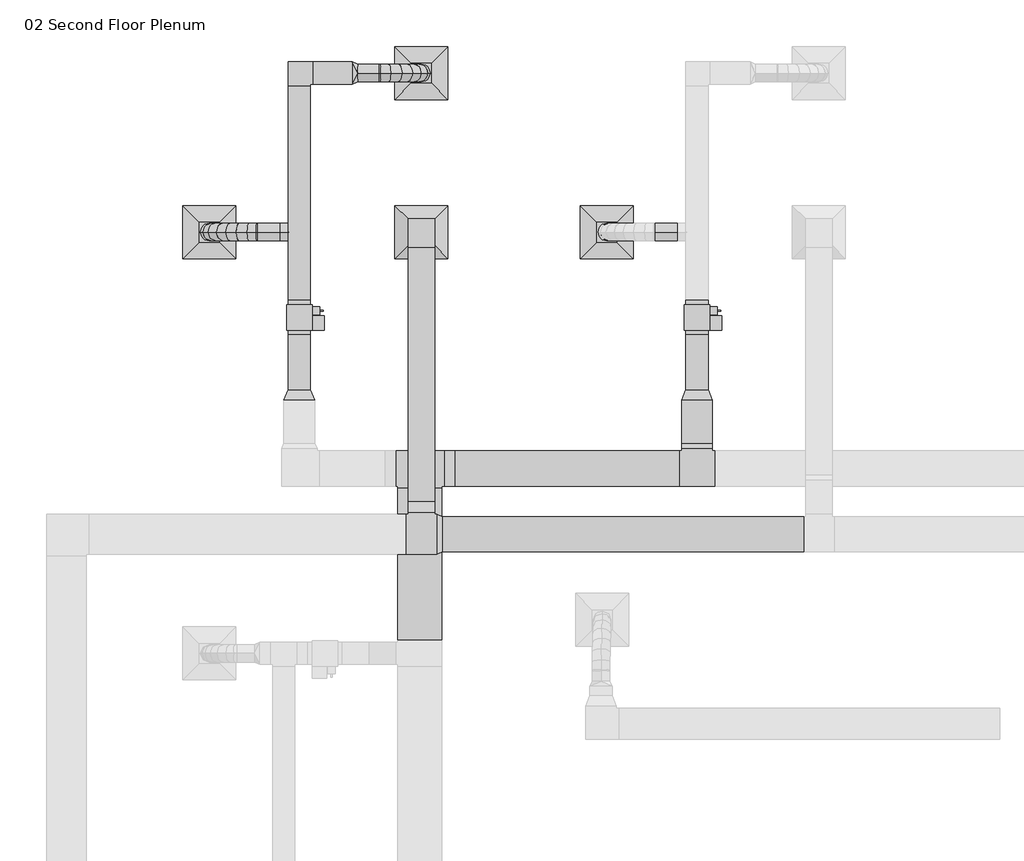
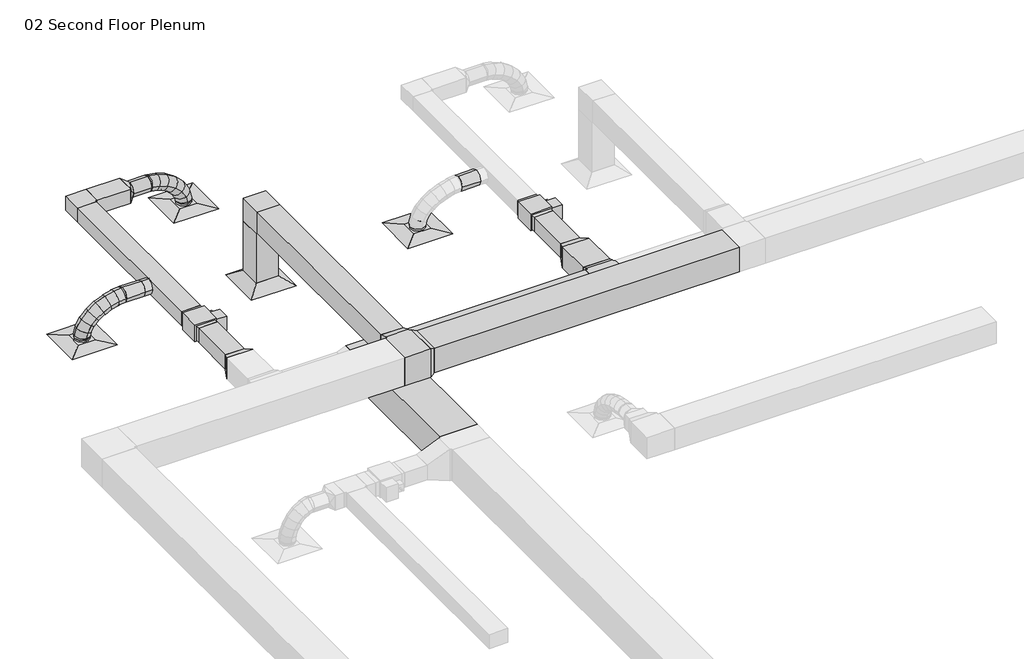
# One storey, part 6 of 12: 15 duct segments, 13 duct fittings, 4 air terminals, 2 proxies.
"""IFC4 building model written with IfcOpenShell, lengths in millimetres."""

from ifc_helpers import new_model, si_unit, point, frame, frame_2d, origin, place, context, project, spatial, polyline, circle_curve, ellipse_curve, trimmed, segment, composite_curve, outline, extrude, transform, mapped, element, save
from ifc_brep_helpers import plane_surface, cylinder_surface, advanced_brep
from components import return_diffuser_d30_returndiffuser_24x24_12x12_connection_ff543d60, supply_diffuser_rectangular_face_round_neck_d30_6390248a, bcn6785_vav_d30_vav1_8c327968, rectangular_elbow_mitered_standard_f09b78ec, rectangular_elbow_mitered_standard_4ff1c4e8, rectangular_tee_standard_6c605370, rectangular_tee_standard_6ecaa18e, rectangular_tee_standard_d8c1cff5, rectangular_transition_angle_45_degree_183635ce, rectangular_transition_angle_45_degree_4f949d70, rectangular_transition_angle_45_degree_74625674, rectangular_transition_angle_45_degree_43c6b1ce, rectangular_transition_angle_45_degree_58881a6c, rectangular_transition_angle_45_degree_6252f190, rectangular_to_round_transition_angle_45_degree_e9430680, round_takeoff_standard_1127d77f

model = new_model("IFC4")

# Units and contexts
model_context = context("Model", 3, world=origin())
ifc_project = project(units=[si_unit("LENGTHUNIT", "METRE", prefix="MILLI")], contexts=[model_context])

# Site, building, storey
site = spatial("IfcSite", under=ifc_project)
building = spatial("IfcBuilding", under=site)
storey = spatial("IfcBuildingStorey", under=building, Name="02 Second Floor Plenum", Elevation=3048.0)

# Air terminals
placement = place(None, origin())
return_diffuser_d30_returndiffuser_24x24_12x12_connection_shape = return_diffuser_d30_returndiffuser_24x24_12x12_connection_ff543d60(model_context)
element("IfcAirTerminal", 1, ObjectType="Return Diffuser : D30_ReturnDiffuser_24x24 12x12 Connection", at=placement, inside=storey, context=model_context, shape_type="MappedRepresentation", body=[
    mapped(return_diffuser_d30_returndiffuser_24x24_12x12_connection_shape, transform((-3890.7542617, 10036.7671675, 3048.0), x_axis=(1.0, 0.0, 0.0), y_axis=(0.0, 1.0, 0.0), z_axis=(0.0, 0.0, 1.0))),
])
supply_diffuser_rectangular_face_round_neck_d30_shape = supply_diffuser_rectangular_face_round_neck_d30_6390248a(model_context)
element("IfcAirTerminal", 2, ObjectType="Supply Diffuser - Rectangular Face Round Neck : D30_SupplyDiffuser_24x24 8 Neck", at=placement, inside=storey, context=model_context, shape_type="MappedRepresentation", body=[
    mapped(supply_diffuser_rectangular_face_round_neck_d30_shape, transform((-1757.1542617, 10036.7671675, 3048.0), x_axis=(1.0, 0.0, 0.0), y_axis=(0.0, 1.0, 0.0), z_axis=(0.0, 0.0, 1.0))),
])
element("IfcAirTerminal", 3, ObjectType="Supply Diffuser - Rectangular Face Round Neck : D30_SupplyDiffuser_24x24 8 Neck", at=placement, inside=storey, context=model_context, shape_type="MappedRepresentation", body=[
    mapped(supply_diffuser_rectangular_face_round_neck_d30_shape, transform((-3890.7542617, 11865.5671675, 3048.0), x_axis=(1.0, 0.0, 0.0), y_axis=(0.0, 1.0, 0.0), z_axis=(0.0, 0.0, 1.0))),
])
element("IfcAirTerminal", 4, ObjectType="Supply Diffuser - Rectangular Face Round Neck : D30_SupplyDiffuser_24x24 8 Neck", at=placement, inside=storey, context=model_context, shape_type="MappedRepresentation", body=[
    mapped(supply_diffuser_rectangular_face_round_neck_d30_shape, transform((-6329.1542617, 10036.7671675, 3048.0), x_axis=(1.0, 0.0, 0.0), y_axis=(0.0, 1.0, 0.0), z_axis=(0.0, 0.0, 1.0))),
])

# Proxies
bcn6785_vav_d30_vav1_shape = bcn6785_vav_d30_vav1_8c327968(model_context)
element("IfcBuildingElementProxy", 5, Name="BCN6785_VAV : D30_VAV1", ObjectType="BCN6785_VAV : D30_VAV1", at=placement, inside=storey, context=model_context, shape_type="MappedRepresentation", body=[
    mapped(bcn6785_vav_d30_vav1_shape, transform((-720.748366, 8909.6421675, 3384.55), x_axis=(0.0, 1.0, 0.0), y_axis=(-1.0, 0.0, 0.0), z_axis=(0.0, 0.0, 1.0))),
])
element("IfcBuildingElementProxy", 6, Name="BCN6785_VAV : D30_VAV1", ObjectType="BCN6785_VAV : D30_VAV1", at=placement, inside=storey, context=model_context, shape_type="MappedRepresentation", body=[
    mapped(bcn6785_vav_d30_vav1_shape, transform((-5292.748366, 8909.6421675, 3384.55), x_axis=(0.0, 1.0, 0.0), y_axis=(-1.0, 0.0, 0.0), z_axis=(0.0, 0.0, 1.0))),
])

# Duct fittings
rectangular_elbow_mitered_standard_shape = rectangular_elbow_mitered_standard_f09b78ec(model_context)
element("IfcDuctFitting", 7, ObjectType="Rectangular Elbow - Mitered : Standard", at=placement, inside=storey, context=model_context, shape_type="MappedRepresentation", body=[
    mapped(rectangular_elbow_mitered_standard_shape, transform((-5292.748366, 11865.5671675, 3505.2), x_axis=(-1.0, 0.0, 0.0), y_axis=(0.0, -1.0, 0.0), z_axis=(0.0, 0.0, 1.0))),
])
rectangular_elbow_mitered_standard_2_shape = rectangular_elbow_mitered_standard_4ff1c4e8(model_context)
element("IfcDuctFitting", 8, ObjectType="Rectangular Elbow - Mitered : Standard", at=placement, inside=storey, context=model_context, shape_type="MappedRepresentation", body=[
    mapped(rectangular_elbow_mitered_standard_2_shape, transform((-3890.7542617, 10036.7671675, 4038.6), x_axis=(0.0, 0.0, 1.0), y_axis=(0.0, -1.0, 0.0), z_axis=(1.0, 0.0, 0.0))),
])
rectangular_tee_standard_shape = rectangular_tee_standard_6c605370(model_context)
element("IfcDuctFitting", 9, ObjectType="Rectangular Tee : Standard", at=placement, inside=storey, context=model_context, shape_type="MappedRepresentation", body=[
    mapped(rectangular_tee_standard_shape, transform((-720.748366, 7316.8809317, 3505.2), x_axis=(-1.0, 0.0, 0.0), y_axis=(0.0, -1.0, 0.0), z_axis=(0.0, 0.0, 1.0))),
])
rectangular_tee_standard_2_shape = rectangular_tee_standard_6ecaa18e(model_context)
element("IfcDuctFitting", 10, ObjectType="Rectangular Tee : Standard", at=placement, inside=storey, context=model_context, shape_type="MappedRepresentation", body=[
    mapped(rectangular_tee_standard_2_shape, transform((-3908.5142705, 7316.8809317, 3505.2), x_axis=(1.0, 0.0, 0.0), y_axis=(0.0, 1.0, 0.0), z_axis=(0.0, 0.0, 1.0))),
])
rectangular_tee_standard_3_shape = rectangular_tee_standard_d8c1cff5(model_context)
element("IfcDuctFitting", 11, ObjectType="Rectangular Tee : Standard", at=placement, inside=storey, context=model_context, shape_type="MappedRepresentation", body=[
    mapped(rectangular_tee_standard_3_shape, transform((-3890.7542617, 6562.5101985, 4038.6), x_axis=(-1.0, 0.0, 0.0), y_axis=(0.0, -1.0, 0.0), z_axis=(0.0, 0.0, 1.0))),
])
rectangular_transition_angle_45_degree_shape = rectangular_transition_angle_45_degree_183635ce(model_context)
element("IfcDuctFitting", 12, ObjectType="Rectangular Transition - Angle : 45 Degree", at=placement, inside=storey, context=model_context, shape_type="MappedRepresentation", body=[
    mapped(rectangular_transition_angle_45_degree_shape, transform((-720.748366, 8101.2001185, 3505.2), x_axis=(0.0, 1.0, 0.0), y_axis=(-1.0, 0.0, 0.0), z_axis=(0.0, 0.0, 1.0))),
])
rectangular_transition_angle_45_degree_2_shape = rectangular_transition_angle_45_degree_4f949d70(model_context)
element("IfcDuctFitting", 13, ObjectType="Rectangular Transition - Angle : 45 Degree", at=placement, inside=storey, context=model_context, shape_type="MappedRepresentation", body=[
    mapped(rectangular_transition_angle_45_degree_2_shape, transform((-720.748366, 7545.4809317, 3505.2), x_axis=(0.0, 1.0, 0.0), y_axis=(-1.0, 0.0, 0.0), z_axis=(0.0, 0.0, 1.0))),
])
rectangular_transition_angle_45_degree_3_shape = rectangular_transition_angle_45_degree_74625674(model_context)
element("IfcDuctFitting", 14, ObjectType="Rectangular Transition - Angle : 45 Degree", at=placement, inside=storey, context=model_context, shape_type="MappedRepresentation", body=[
    mapped(rectangular_transition_angle_45_degree_3_shape, transform((-5292.748366, 8223.8421675, 3505.2), x_axis=(0.0, -1.0, 0.0), y_axis=(1.0, 0.0, 0.0), z_axis=(0.0, 0.0, 1.0))),
])
rectangular_transition_angle_45_degree_4_shape = rectangular_transition_angle_45_degree_43c6b1ce(model_context)
element("IfcDuctFitting", 15, ObjectType="Rectangular Transition - Angle : 45 Degree", at=placement, inside=storey, context=model_context, shape_type="MappedRepresentation", body=[
    mapped(rectangular_transition_angle_45_degree_4_shape, transform((-3629.1142705, 7316.8809317, 3505.2), x_axis=(1.0, 0.0, 0.0), y_axis=(0.0, 1.0, 0.0), z_axis=(0.0, 0.0, 1.0))),
])
rectangular_transition_angle_45_degree_5_shape = rectangular_transition_angle_45_degree_58881a6c(model_context)
element("IfcDuctFitting", 16, ObjectType="Rectangular Transition - Angle : 45 Degree", at=placement, inside=storey, context=model_context, shape_type="MappedRepresentation", body=[
    mapped(rectangular_transition_angle_45_degree_5_shape, transform((-3890.7542617, 6816.5101985, 4038.6), x_axis=(0.0, 1.0, 0.0), y_axis=(-1.0, 0.0, 0.0), z_axis=(0.0, 0.0, 1.0))),
])
rectangular_transition_angle_45_degree_6_shape = rectangular_transition_angle_45_degree_6252f190(model_context)
element("IfcDuctFitting", 17, ObjectType="Rectangular Transition - Angle : 45 Degree", at=placement, inside=storey, context=model_context, shape_type="MappedRepresentation", body=[
    mapped(rectangular_transition_angle_45_degree_6_shape, transform((-3712.9542617, 6562.5101985, 4038.6), x_axis=(1.0, 0.0, 0.0), y_axis=(0.0, 1.0, 0.0), z_axis=(0.0, 0.0, 1.0))),
])
rectangular_to_round_transition_angle_45_degree_shape = rectangular_to_round_transition_angle_45_degree_e9430680(model_context)
element("IfcDuctFitting", 18, ObjectType="Rectangular to Round Transition - Angle : 45 Degree", at=placement, inside=storey, context=model_context, shape_type="MappedRepresentation", body=[
    mapped(rectangular_to_round_transition_angle_45_degree_shape, transform((-4683.148366, 11865.5671675, 3505.2), x_axis=(1.0, 0.0, 0.0), y_axis=(0.0, 1.0, 0.0), z_axis=(0.0, 0.0, 1.0))),
])
round_takeoff_standard_shape = round_takeoff_standard_1127d77f(model_context)
element("IfcDuctFitting", 19, ObjectType="Round Takeoff : Standard", at=placement, inside=storey, context=model_context, shape_type="MappedRepresentation", body=[
    mapped(round_takeoff_standard_shape, transform((-5419.748366, 10036.7671675, 3505.2), x_axis=(-1.0, 0.0, 0.0), y_axis=(0.0, 1.0, 0.0), z_axis=(0.0, 0.0, -1.0))),
])

# Duct segments
element("IfcDuctSegment", 20, ObjectType="Flex - Round", at=placement, inside=storey, context=model_context, shape_type="AdvancedBrep", body=[
    advanced_brep(
    [(-4378.348366, 11967.1671675, 3505.2), (-4378.348366, 11865.5671675, 3403.6), (-4378.348366, 11763.9671675, 3505.2), (-4378.348366, 11865.5671675, 3606.8), (-4364.3401235, 11967.1671675, 3505.2), (-4372.3997602, 11865.5671675, 3403.6), (-4364.3401235, 11763.9671675, 3505.2), (-4356.2804868, 11865.5671675, 3606.8), (-3890.7542617, 11967.1671675, 3101.975), (-3789.1542617, 11865.5671675, 3101.975), (-3890.7542617, 11763.9671675, 3101.975), (-3992.3542617, 11865.5671675, 3101.975), (-4268.998454, 11967.1671675, 3489.9778475), (-4295.4658444, 11865.5671675, 3391.3168105), (-4268.998454, 11763.9671675, 3489.9778475), (-4242.5310635, 11865.5671675, 3588.6388846), (-4158.198337, 11967.1671675, 3447.5285565), (-4203.9317183, 11865.5671675, 3356.2486277), (-4158.198337, 11763.9671675, 3447.5285565), (-4112.4649557, 11865.5671675, 3538.8084854), (-4055.4609372, 11967.1671675, 3382.6778766), (-4118.5742744, 11865.5671675, 3302.3686553), (-4055.4609372, 11763.9671675, 3382.6778766), (-3992.3475999, 11865.5671675, 3462.987098), (-3970.2991766, 11967.1671675, 3300.2515575), (-4050.2757413, 11865.5671675, 3236.2639076), (-3970.2991766, 11763.9671675, 3300.2515575), (-3890.322612, 11865.5671675, 3364.2392074), (-3912.2259774, 11967.1671675, 3205.0753487), (-4006.7620486, 11865.5671675, 3164.9492848), (-3912.2259774, 11763.9671675, 3205.0753487), (-3817.6899062, 11865.5671675, 3245.2014127), (-3890.7542617, 11967.1671675, 3122.6897958), (-3992.3542617, 11865.5671675, 3109.6675594), (-3890.7542617, 11763.9671675, 3122.6897958), (-3789.1542617, 11865.5671675, 3135.7120321)],
    [
        (0, 1, circle_curve(frame((-4378.348366, 11865.5671675, 3505.2), z_axis=(-1.0, 0.0, 0.0), x_axis=(0.0, 1.0, 0.0)), 101.6)),
        (1, 2, circle_curve(frame((-4378.348366, 11865.5671675, 3505.2), z_axis=(-1.0, 0.0, 0.0), x_axis=(0.0, 1.0, 0.0)), 101.6)),
        (2, 3, circle_curve(frame((-4378.348366, 11865.5671675, 3505.2), z_axis=(-1.0, 0.0, 0.0), x_axis=(0.0, 1.0, 0.0)), 101.6)),
        (3, 0, circle_curve(frame((-4378.348366, 11865.5671675, 3505.2), z_axis=(-1.0, 0.0, 0.0), x_axis=(0.0, 1.0, 0.0)), 101.6)),
        (0, 4),
        (4, 5, ellipse_curve(frame((-4364.3401235, 11865.5671675, 3505.2), z_axis=(-0.9968683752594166, 0.0, 0.07907871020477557), x_axis=(-0.07907871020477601, 0.0, -0.9968683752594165)), 101.9191726, 101.6)),
        (5, 1),
        (5, 6, ellipse_curve(frame((-4364.3401235, 11865.5671675, 3505.2), z_axis=(-0.9968683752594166, 0.0, 0.07907871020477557), x_axis=(-0.07907871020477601, 0.0, -0.9968683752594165)), 101.9191726, 101.6)),
        (6, 2),
        (6, 7, ellipse_curve(frame((-4364.3401235, 11865.5671675, 3505.2), z_axis=(-0.9968683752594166, 0.0, 0.07907871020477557), x_axis=(-0.07907871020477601, 0.0, -0.9968683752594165)), 101.9191726, 101.6)),
        (7, 3),
        (7, 4, ellipse_curve(frame((-4364.3401235, 11865.5671675, 3505.2), z_axis=(-0.9968683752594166, 0.0, 0.07907871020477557), x_axis=(-0.07907871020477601, 0.0, -0.9968683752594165)), 101.9191726, 101.6)),
        (8, 9, circle_curve(frame((-3890.7542617, 11865.5671675, 3101.975), z_axis=(0.0, 0.0, -1.0), x_axis=(0.0, 1.0, 0.0)), 101.6)),
        (9, 10, circle_curve(frame((-3890.7542617, 11865.5671675, 3101.975), z_axis=(0.0, 0.0, -1.0), x_axis=(0.0, 1.0, 0.0)), 101.6)),
        (10, 11, circle_curve(frame((-3890.7542617, 11865.5671675, 3101.975), z_axis=(0.0, 0.0, -1.0), x_axis=(0.0, 1.0, 0.0)), 101.6)),
        (11, 8, circle_curve(frame((-3890.7542617, 11865.5671675, 3101.975), z_axis=(0.0, 0.0, -1.0), x_axis=(0.0, 1.0, 0.0)), 101.6)),
        (4, 12),
        (12, 13, ellipse_curve(frame((-4268.998454, 11865.5671675, 3489.9778475), z_axis=(-0.9658493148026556, 0.0, 0.2591044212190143), x_axis=(-0.2591044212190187, 0.0, -0.9658493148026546)), 102.1495129, 101.6)),
        (13, 5),
        (13, 14, ellipse_curve(frame((-4268.998454, 11865.5671675, 3489.9778475), z_axis=(-0.9658493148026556, 0.0, 0.2591044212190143), x_axis=(-0.2591044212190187, 0.0, -0.9658493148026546)), 102.1495129, 101.6)),
        (14, 6),
        (14, 15, ellipse_curve(frame((-4268.998454, 11865.5671675, 3489.9778475), z_axis=(-0.9658493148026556, 0.0, 0.2591044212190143), x_axis=(-0.2591044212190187, 0.0, -0.9658493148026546)), 102.1495129, 101.6)),
        (15, 7),
        (15, 12, ellipse_curve(frame((-4268.998454, 11865.5671675, 3489.9778475), z_axis=(-0.9658493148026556, 0.0, 0.2591044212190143), x_axis=(-0.2591044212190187, 0.0, -0.9658493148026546)), 102.1495129, 101.6)),
        (12, 16),
        (16, 17, ellipse_curve(frame((-4158.198337, 11865.5671675, 3447.5285565), z_axis=(-0.8940608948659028, 0.0, 0.44794543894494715), x_axis=(-0.4479454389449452, 0.0, -0.8940608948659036)), 102.0958744, 101.6)),
        (17, 13),
        (17, 18, ellipse_curve(frame((-4158.198337, 11865.5671675, 3447.5285565), z_axis=(-0.8940608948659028, 0.0, 0.44794543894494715), x_axis=(-0.4479454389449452, 0.0, -0.8940608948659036)), 102.0958744, 101.6)),
        (18, 14),
        (18, 19, ellipse_curve(frame((-4158.198337, 11865.5671675, 3447.5285565), z_axis=(-0.8940608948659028, 0.0, 0.44794543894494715), x_axis=(-0.4479454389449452, 0.0, -0.8940608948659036)), 102.0958744, 101.6)),
        (19, 15),
        (19, 16, ellipse_curve(frame((-4158.198337, 11865.5671675, 3447.5285565), z_axis=(-0.8940608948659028, 0.0, 0.44794543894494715), x_axis=(-0.4479454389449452, 0.0, -0.8940608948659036)), 102.0958744, 101.6)),
        (16, 20),
        (20, 21, ellipse_curve(frame((-4055.4609372, 11865.5671675, 3382.6778766), z_axis=(-0.7862553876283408, 0.0, 0.6179016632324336), x_axis=(-0.6179016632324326, 0.0, -0.7862553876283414)), 102.141394, 101.6)),
        (21, 17),
        (21, 22, ellipse_curve(frame((-4055.4609372, 11865.5671675, 3382.6778766), z_axis=(-0.7862553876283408, 0.0, 0.6179016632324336), x_axis=(-0.6179016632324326, 0.0, -0.7862553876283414)), 102.141394, 101.6)),
        (22, 18),
        (22, 23, ellipse_curve(frame((-4055.4609372, 11865.5671675, 3382.6778766), z_axis=(-0.7862553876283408, 0.0, 0.6179016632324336), x_axis=(-0.6179016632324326, 0.0, -0.7862553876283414)), 102.141394, 101.6)),
        (23, 19),
        (23, 20, ellipse_curve(frame((-4055.4609372, 11865.5671675, 3382.6778766), z_axis=(-0.7862553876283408, 0.0, 0.6179016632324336), x_axis=(-0.6179016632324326, 0.0, -0.7862553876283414)), 102.141394, 101.6)),
        (20, 24),
        (24, 25, ellipse_curve(frame((-3970.2991766, 11865.5671675, 3300.2515575), z_axis=(-0.6247331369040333, 0.0, 0.7808383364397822), x_axis=(-0.7808383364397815, 0.0, -0.6247331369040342)), 102.4239729, 101.6)),
        (25, 21),
        (25, 26, ellipse_curve(frame((-3970.2991766, 11865.5671675, 3300.2515575), z_axis=(-0.6247331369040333, 0.0, 0.7808383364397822), x_axis=(-0.7808383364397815, 0.0, -0.6247331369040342)), 102.4239729, 101.6)),
        (26, 22),
        (26, 27, ellipse_curve(frame((-3970.2991766, 11865.5671675, 3300.2515575), z_axis=(-0.6247331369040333, 0.0, 0.7808383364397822), x_axis=(-0.7808383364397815, 0.0, -0.6247331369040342)), 102.4239729, 101.6)),
        (27, 23),
        (27, 24, ellipse_curve(frame((-3970.2991766, 11865.5671675, 3300.2515575), z_axis=(-0.6247331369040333, 0.0, 0.7808383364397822), x_axis=(-0.7808383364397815, 0.0, -0.6247331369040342)), 102.4239729, 101.6)),
        (24, 28),
        (28, 29, ellipse_curve(frame((-3912.2259774, 11865.5671675, 3205.0753487), z_axis=(-0.3907136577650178, 0.0, 0.9205122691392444), x_axis=(-0.9205122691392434, 0.0, -0.39071365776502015)), 102.6994146, 101.6)),
        (29, 25),
        (29, 30, ellipse_curve(frame((-3912.2259774, 11865.5671675, 3205.0753487), z_axis=(-0.3907136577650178, 0.0, 0.9205122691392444), x_axis=(-0.9205122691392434, 0.0, -0.39071365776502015)), 102.6994146, 101.6)),
        (30, 26),
        (30, 31, ellipse_curve(frame((-3912.2259774, 11865.5671675, 3205.0753487), z_axis=(-0.3907136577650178, 0.0, 0.9205122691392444), x_axis=(-0.9205122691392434, 0.0, -0.39071365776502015)), 102.6994146, 101.6)),
        (31, 27),
        (31, 28, ellipse_curve(frame((-3912.2259774, 11865.5671675, 3205.0753487), z_axis=(-0.3907136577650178, 0.0, 0.9205122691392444), x_axis=(-0.9205122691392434, 0.0, -0.39071365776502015)), 102.6994146, 101.6)),
        (28, 32),
        (32, 33, ellipse_curve(frame((-3890.7542617, 11865.5671675, 3122.6897958), z_axis=(-0.127131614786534, 0.0, 0.9918858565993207), x_axis=(-0.9918858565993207, 0.0, -0.12713161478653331)), 102.431141, 101.6)),
        (33, 29),
        (33, 34, ellipse_curve(frame((-3890.7542617, 11865.5671675, 3122.6897958), z_axis=(-0.127131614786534, 0.0, 0.9918858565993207), x_axis=(-0.9918858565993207, 0.0, -0.12713161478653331)), 102.431141, 101.6)),
        (34, 30),
        (34, 35, ellipse_curve(frame((-3890.7542617, 11865.5671675, 3122.6897958), z_axis=(-0.127131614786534, 0.0, 0.9918858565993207), x_axis=(-0.9918858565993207, 0.0, -0.12713161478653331)), 102.431141, 101.6)),
        (35, 31),
        (35, 32, ellipse_curve(frame((-3890.7542617, 11865.5671675, 3122.6897958), z_axis=(-0.127131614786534, 0.0, 0.9918858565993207), x_axis=(-0.9918858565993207, 0.0, -0.12713161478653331)), 102.431141, 101.6)),
        (32, 8),
        (11, 33),
        (10, 34),
        (9, 35),
    ],
    [
        plane_surface(frame((-4378.348366, 11865.5671675, 3403.6), z_axis=(-1.0, 0.0, 0.0), x_axis=(0.0, 1.0, 0.0))),
        cylinder_surface(frame((-4378.348366, 11865.5671675, 3505.2), z_axis=(-1.0, 0.0, 0.0), x_axis=(0.0, 1.0, 0.0)), 101.6),
        plane_surface(frame((-3890.7542617, 11763.9671675, 3101.975), z_axis=(0.0, 0.0, -1.0), x_axis=(-1.0, 0.0, 0.0))),
        cylinder_surface(frame((-4364.3401235, 11865.5671675, 3505.2), z_axis=(-0.9874931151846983, 0.0, 0.15766213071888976), x_axis=(0.0, 1.0, 0.0)), 101.6),
        cylinder_surface(frame((-4268.998454, 11865.5671675, 3489.9778475), z_axis=(-0.9338139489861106, 0.0, 0.35775900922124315), x_axis=(0.0, 1.0, 0.0)), 101.6),
        cylinder_surface(frame((-4158.198337, 11865.5671675, 3447.5285565), z_axis=(-0.8456230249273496, 0.0, 0.5337805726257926), x_axis=(0.0, 1.0, 0.0)), 101.6),
        cylinder_surface(frame((-4055.4609372, 11865.5671675, 3382.6778766), z_axis=(-0.7185527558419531, 0.0, 0.6954724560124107), x_axis=(0.0, 1.0, 0.0)), 101.6),
        cylinder_surface(frame((-3970.2991766, 11865.5671675, 3300.2515575), z_axis=(-0.5208619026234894, 0.0, 0.85364095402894), x_axis=(0.0, 1.0, 0.0)), 101.6),
        cylinder_surface(frame((-3912.2259774, 11865.5671675, 3205.0753487), z_axis=(-0.2522001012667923, 0.0, 0.9676751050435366), x_axis=(0.0, 1.0, 0.0)), 101.6),
        cylinder_surface(frame((-3890.7542617, 11865.5671675, 3122.6897958), z_axis=(0.0, 0.0, 1.0), x_axis=(0.0, 1.0, 0.0)), 101.6),
    ],
    [
        (0, [[1, 2, 3, 4]]),
        (1, [[-1, 5, 6, 7]]),
        (1, [[-2, -7, 8, 9]]),
        (1, [[-3, -9, 10, 11]]),
        (1, [[-4, -11, 12, -5]]),
        (2, [[13, 14, 15, 16]]),
        (3, [[-6, 17, 18, 19]]),
        (3, [[-8, -19, 20, 21]]),
        (3, [[-10, -21, 22, 23]]),
        (3, [[-12, -23, 24, -17]]),
        (4, [[-18, 25, 26, 27]]),
        (4, [[-20, -27, 28, 29]]),
        (4, [[-22, -29, 30, 31]]),
        (4, [[-24, -31, 32, -25]]),
        (5, [[-26, 33, 34, 35]]),
        (5, [[-28, -35, 36, 37]]),
        (5, [[-30, -37, 38, 39]]),
        (5, [[-32, -39, 40, -33]]),
        (6, [[-34, 41, 42, 43]]),
        (6, [[-36, -43, 44, 45]]),
        (6, [[-38, -45, 46, 47]]),
        (6, [[-40, -47, 48, -41]]),
        (7, [[-42, 49, 50, 51]]),
        (7, [[-44, -51, 52, 53]]),
        (7, [[-46, -53, 54, 55]]),
        (7, [[-48, -55, 56, -49]]),
        (8, [[-50, 57, 58, 59]]),
        (8, [[-52, -59, 60, 61]]),
        (8, [[-54, -61, 62, 63]]),
        (8, [[-56, -63, 64, -57]]),
        (9, [[-58, 65, -16, 66]]),
        (9, [[-60, -66, -15, 67]]),
        (9, [[-62, -67, -14, 68]]),
        (9, [[-64, -68, -13, -65]]),
    ],
),
])
element("IfcDuctSegment", 21, ObjectType="Flex - Round", at=placement, inside=storey, context=model_context, shape_type="AdvancedBrep", body=[
    advanced_brep(
    [(-5775.348366, 9935.1671675, 3505.2), (-5775.348366, 10036.7671675, 3403.6), (-5775.348366, 10138.3671675, 3505.2), (-5775.348366, 10036.7671675, 3606.8), (-5785.550614, 9935.1671675, 3505.2), (-5779.8750929, 10036.7671675, 3403.6), (-5785.550614, 10138.3671675, 3505.2), (-5791.2261351, 10036.7671675, 3606.8), (-6329.1542617, 9935.1671675, 3101.975), (-6430.7542617, 10036.7671675, 3101.975), (-6329.1542617, 10138.3671675, 3101.975), (-6227.5542617, 10036.7671675, 3101.975), (-5877.9257887, 9935.1671675, 3494.847276), (-5858.593384, 10036.7671675, 3394.7778382), (-5877.9257887, 10138.3671675, 3494.847276), (-5897.2581935, 10036.7671675, 3594.9167138), (-5985.0020777, 9935.1671675, 3465.2048655), (-5950.4297131, 10036.7671675, 3369.3543743), (-5985.0020777, 10138.3671675, 3465.2048655), (-6019.5744422, 10036.7671675, 3561.0553568), (-6089.1854541, 9935.1671675, 3418.396411), (-6040.1078152, 10036.7671675, 3329.0629813), (-6089.1854541, 10138.3671675, 3418.396411), (-6138.263093, 10036.7671675, 3507.7298408), (-6183.0841394, 9935.1671675, 3356.5455549), (-6118.9689142, 10036.7671675, 3277.1173499), (-6183.0841394, 10138.3671675, 3356.5455549), (-6247.1993646, 10036.7671675, 3435.9737598), (-6259.3063549, 9935.1671675, 3281.7759394), (-6178.8169244, 10036.7671675, 3218.4098894), (-6259.3063549, 10138.3671675, 3281.7759394), (-6339.7957854, 10036.7671675, 3345.1419893), (-6310.4603219, 9935.1671675, 3196.211207), (-6215.5666037, 10036.7671675, 3156.9390659), (-6310.4603219, 10138.3671675, 3196.211207), (-6405.35404, 10036.7671675, 3235.483348), (-6329.1542617, 9935.1671675, 3121.7444887), (-6227.5542617, 10036.7671675, 3109.1866092), (-6329.1542617, 10138.3671675, 3121.7444887), (-6430.7542617, 10036.7671675, 3134.3023681)],
    [
        (0, 1, circle_curve(frame((-5775.348366, 10036.7671675, 3505.2), z_axis=(1.0, 0.0, 0.0), x_axis=(0.0, -1.0, 0.0)), 101.6)),
        (1, 2, circle_curve(frame((-5775.348366, 10036.7671675, 3505.2), z_axis=(1.0, 0.0, 0.0), x_axis=(0.0, -1.0, 0.0)), 101.6)),
        (2, 3, circle_curve(frame((-5775.348366, 10036.7671675, 3505.2), z_axis=(1.0, 0.0, 0.0), x_axis=(0.0, -1.0, 0.0)), 101.6)),
        (3, 0, circle_curve(frame((-5775.348366, 10036.7671675, 3505.2), z_axis=(1.0, 0.0, 0.0), x_axis=(0.0, -1.0, 0.0)), 101.6)),
        (0, 4),
        (4, 5, ellipse_curve(frame((-5785.550614, 10036.7671675, 3505.2), z_axis=(0.9984433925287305, 0.0, 0.05577447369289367), x_axis=(0.05577447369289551, 0.0, -0.9984433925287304)), 101.7583979, 101.6)),
        (5, 1),
        (5, 6, ellipse_curve(frame((-5785.550614, 10036.7671675, 3505.2), z_axis=(0.9984433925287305, 0.0, 0.05577447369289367), x_axis=(0.05577447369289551, 0.0, -0.9984433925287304)), 101.7583979, 101.6)),
        (6, 2),
        (6, 7, ellipse_curve(frame((-5785.550614, 10036.7671675, 3505.2), z_axis=(0.9984433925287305, 0.0, 0.05577447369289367), x_axis=(0.05577447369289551, 0.0, -0.9984433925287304)), 101.7583979, 101.6)),
        (7, 3),
        (7, 4, ellipse_curve(frame((-5785.550614, 10036.7671675, 3505.2), z_axis=(0.9984433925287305, 0.0, 0.05577447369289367), x_axis=(0.05577447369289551, 0.0, -0.9984433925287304)), 101.7583979, 101.6)),
        (8, 9, circle_curve(frame((-6329.1542617, 10036.7671675, 3101.975), z_axis=(0.0, 0.0, -1.0), x_axis=(0.0, -1.0, 0.0)), 101.6)),
        (9, 10, circle_curve(frame((-6329.1542617, 10036.7671675, 3101.975), z_axis=(0.0, 0.0, -1.0), x_axis=(0.0, -1.0, 0.0)), 101.6)),
        (10, 11, circle_curve(frame((-6329.1542617, 10036.7671675, 3101.975), z_axis=(0.0, 0.0, -1.0), x_axis=(0.0, -1.0, 0.0)), 101.6)),
        (11, 8, circle_curve(frame((-6329.1542617, 10036.7671675, 3101.975), z_axis=(0.0, 0.0, -1.0), x_axis=(0.0, -1.0, 0.0)), 101.6)),
        (4, 12),
        (12, 13, ellipse_curve(frame((-5877.9257887, 10036.7671675, 3494.847276), z_axis=(0.9818454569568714, 0.0, 0.18968262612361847), x_axis=(0.18968262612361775, 0.0, -0.9818454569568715)), 101.9197442, 101.6)),
        (13, 5),
        (13, 14, ellipse_curve(frame((-5877.9257887, 10036.7671675, 3494.847276), z_axis=(0.9818454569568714, 0.0, 0.18968262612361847), x_axis=(0.18968262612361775, 0.0, -0.9818454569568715)), 101.9197442, 101.6)),
        (14, 6),
        (14, 15, ellipse_curve(frame((-5877.9257887, 10036.7671675, 3494.847276), z_axis=(0.9818454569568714, 0.0, 0.18968262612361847), x_axis=(0.18968262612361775, 0.0, -0.9818454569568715)), 101.9197442, 101.6)),
        (15, 7),
        (15, 12, ellipse_curve(frame((-5877.9257887, 10036.7671675, 3494.847276), z_axis=(0.9818454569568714, 0.0, 0.18968262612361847), x_axis=(0.18968262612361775, 0.0, -0.9818454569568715)), 101.9197442, 101.6)),
        (12, 16),
        (16, 17, ellipse_curve(frame((-5985.0020777, 10036.7671675, 3465.2048655), z_axis=(0.9406802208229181, 0.0, 0.3392944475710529), x_axis=(0.33929444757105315, 0.0, -0.940680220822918)), 101.8948726, 101.6)),
        (17, 13),
        (17, 18, ellipse_curve(frame((-5985.0020777, 10036.7671675, 3465.2048655), z_axis=(0.9406802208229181, 0.0, 0.3392944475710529), x_axis=(0.33929444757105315, 0.0, -0.940680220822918)), 101.8948726, 101.6)),
        (18, 14),
        (18, 19, ellipse_curve(frame((-5985.0020777, 10036.7671675, 3465.2048655), z_axis=(0.9406802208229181, 0.0, 0.3392944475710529), x_axis=(0.33929444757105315, 0.0, -0.940680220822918)), 101.8948726, 101.6)),
        (19, 15),
        (19, 16, ellipse_curve(frame((-5985.0020777, 10036.7671675, 3465.2048655), z_axis=(0.9406802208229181, 0.0, 0.3392944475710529), x_axis=(0.33929444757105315, 0.0, -0.940680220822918)), 101.8948726, 101.6)),
        (16, 20),
        (20, 21, ellipse_curve(frame((-6089.1854541, 10036.7671675, 3418.396411), z_axis=(0.876446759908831, 0.0, 0.48149878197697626), x_axis=(0.48149878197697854, 0.0, -0.8764467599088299)), 101.9268184, 101.6)),
        (21, 17),
        (21, 22, ellipse_curve(frame((-6089.1854541, 10036.7671675, 3418.396411), z_axis=(0.876446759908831, 0.0, 0.48149878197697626), x_axis=(0.48149878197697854, 0.0, -0.8764467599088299)), 101.9268184, 101.6)),
        (22, 18),
        (22, 23, ellipse_curve(frame((-6089.1854541, 10036.7671675, 3418.396411), z_axis=(0.876446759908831, 0.0, 0.48149878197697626), x_axis=(0.48149878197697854, 0.0, -0.8764467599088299)), 101.9268184, 101.6)),
        (23, 19),
        (23, 20, ellipse_curve(frame((-6089.1854541, 10036.7671675, 3418.396411), z_axis=(0.876446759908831, 0.0, 0.48149878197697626), x_axis=(0.48149878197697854, 0.0, -0.8764467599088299)), 101.9268184, 101.6)),
        (20, 24),
        (24, 25, ellipse_curve(frame((-6183.0841394, 10036.7671675, 3356.5455549), z_axis=(0.7781246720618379, 0.0, 0.6281098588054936), x_axis=(0.6281098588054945, 0.0, -0.7781246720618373)), 102.0764509, 101.6)),
        (25, 21),
        (25, 26, ellipse_curve(frame((-6183.0841394, 10036.7671675, 3356.5455549), z_axis=(0.7781246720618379, 0.0, 0.6281098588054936), x_axis=(0.6281098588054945, 0.0, -0.7781246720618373)), 102.0764509, 101.6)),
        (26, 22),
        (26, 27, ellipse_curve(frame((-6183.0841394, 10036.7671675, 3356.5455549), z_axis=(0.7781246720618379, 0.0, 0.6281098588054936), x_axis=(0.6281098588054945, 0.0, -0.7781246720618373)), 102.0764509, 101.6)),
        (27, 23),
        (27, 24, ellipse_curve(frame((-6183.0841394, 10036.7671675, 3356.5455549), z_axis=(0.7781246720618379, 0.0, 0.6281098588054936), x_axis=(0.6281098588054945, 0.0, -0.7781246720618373)), 102.0764509, 101.6)),
        (24, 28),
        (28, 29, ellipse_curve(frame((-6259.3063549, 10036.7671675, 3281.7759394), z_axis=(0.6185718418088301, 0.0, 0.7857282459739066), x_axis=(0.7857282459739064, 0.0, -0.6185718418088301)), 102.4392733, 101.6)),
        (29, 25),
        (29, 30, ellipse_curve(frame((-6259.3063549, 10036.7671675, 3281.7759394), z_axis=(0.6185718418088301, 0.0, 0.7857282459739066), x_axis=(0.7857282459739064, 0.0, -0.6185718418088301)), 102.4392733, 101.6)),
        (30, 26),
        (30, 31, ellipse_curve(frame((-6259.3063549, 10036.7671675, 3281.7759394), z_axis=(0.6185718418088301, 0.0, 0.7857282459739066), x_axis=(0.7857282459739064, 0.0, -0.6185718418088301)), 102.4392733, 101.6)),
        (31, 27),
        (31, 28, ellipse_curve(frame((-6259.3063549, 10036.7671675, 3281.7759394), z_axis=(0.6185718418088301, 0.0, 0.7857282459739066), x_axis=(0.7857282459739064, 0.0, -0.6185718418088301)), 102.4392733, 101.6)),
        (28, 32),
        (32, 33, ellipse_curve(frame((-6310.4603219, 10036.7671675, 3196.211207), z_axis=(0.3823998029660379, 0.0, 0.9239969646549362), x_axis=(0.923996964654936, 0.0, -0.38239980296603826)), 102.6991666, 101.6)),
        (33, 29),
        (33, 34, ellipse_curve(frame((-6310.4603219, 10036.7671675, 3196.211207), z_axis=(0.3823998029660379, 0.0, 0.9239969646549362), x_axis=(0.923996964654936, 0.0, -0.38239980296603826)), 102.6991666, 101.6)),
        (34, 30),
        (34, 35, ellipse_curve(frame((-6310.4603219, 10036.7671675, 3196.211207), z_axis=(0.3823998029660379, 0.0, 0.9239969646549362), x_axis=(0.923996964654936, 0.0, -0.38239980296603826)), 102.6991666, 101.6)),
        (35, 31),
        (35, 32, ellipse_curve(frame((-6310.4603219, 10036.7671675, 3196.211207), z_axis=(0.3823998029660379, 0.0, 0.9239969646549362), x_axis=(0.923996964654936, 0.0, -0.38239980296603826)), 102.6991666, 101.6)),
        (32, 36),
        (36, 37, ellipse_curve(frame((-6329.1542617, 10036.7671675, 3121.7444887), z_axis=(0.12266771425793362, 0.0, 0.9924477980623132), x_axis=(0.992447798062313, 0.0, -0.12266771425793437)), 102.3731426, 101.6)),
        (37, 33),
        (37, 38, ellipse_curve(frame((-6329.1542617, 10036.7671675, 3121.7444887), z_axis=(0.12266771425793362, 0.0, 0.9924477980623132), x_axis=(0.992447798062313, 0.0, -0.12266771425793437)), 102.3731426, 101.6)),
        (38, 34),
        (38, 39, ellipse_curve(frame((-6329.1542617, 10036.7671675, 3121.7444887), z_axis=(0.12266771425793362, 0.0, 0.9924477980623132), x_axis=(0.992447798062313, 0.0, -0.12266771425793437)), 102.3731426, 101.6)),
        (39, 35),
        (39, 36, ellipse_curve(frame((-6329.1542617, 10036.7671675, 3121.7444887), z_axis=(0.12266771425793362, 0.0, 0.9924477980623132), x_axis=(0.992447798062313, 0.0, -0.12266771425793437)), 102.3731426, 101.6)),
        (36, 8),
        (11, 37),
        (10, 38),
        (9, 39),
    ],
    [
        plane_surface(frame((-5775.348366, 10036.7671675, 3403.6), z_axis=(1.0, 0.0, 0.0), x_axis=(0.0, -1.0, 0.0))),
        cylinder_surface(frame((-5775.348366, 10036.7671675, 3505.2), z_axis=(1.0, 0.0, 0.0), x_axis=(0.0, -1.0, 0.0)), 101.6),
        plane_surface(frame((-6329.1542617, 9935.1671675, 3101.975), z_axis=(0.0, 0.0, -1.0), x_axis=(-1.0, 0.0, 0.0))),
        cylinder_surface(frame((-5785.550614, 10036.7671675, 3505.2), z_axis=(0.9937784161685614, 0.0, 0.11137530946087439), x_axis=(0.0, -1.0, 0.0)), 101.6),
        cylinder_surface(frame((-5877.9257887, 10036.7671675, 3494.847276), z_axis=(0.9637519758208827, 0.0, 0.2667997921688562), x_axis=(0.0, -1.0, 0.0)), 101.6),
        cylinder_surface(frame((-5985.0020777, 10036.7671675, 3465.2048655), z_axis=(0.9121640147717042, 0.0, 0.409825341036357), x_axis=(0.0, -1.0, 0.0)), 101.6),
        cylinder_surface(frame((-6089.1854541, 10036.7671675, 3418.396411), z_axis=(0.8351090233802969, 0.0, 0.5500844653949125), x_axis=(0.0, -1.0, 0.0)), 101.6),
        cylinder_surface(frame((-6183.0841394, 10036.7671675, 3356.5455549), z_axis=(0.7138763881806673, 0.0, 0.7002717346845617), x_axis=(0.0, -1.0, 0.0)), 101.6),
        cylinder_surface(frame((-6259.3063549, 10036.7671675, 3281.7759394), z_axis=(0.5131315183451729, 0.0, 0.8583099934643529), x_axis=(0.0, -1.0, 0.0)), 101.6),
        cylinder_surface(frame((-6310.4603219, 10036.7671675, 3196.211207), z_axis=(0.24348260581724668, 0.0, 0.9699052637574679), x_axis=(0.0, -1.0, 0.0)), 101.6),
        cylinder_surface(frame((-6329.1542617, 10036.7671675, 3121.7444887), z_axis=(0.0, 0.0, 1.0), x_axis=(0.0, -1.0, 0.0)), 101.6),
    ],
    [
        (0, [[1, 2, 3, 4]]),
        (1, [[-1, 5, 6, 7]]),
        (1, [[-2, -7, 8, 9]]),
        (1, [[-3, -9, 10, 11]]),
        (1, [[-4, -11, 12, -5]]),
        (2, [[13, 14, 15, 16]]),
        (3, [[-6, 17, 18, 19]]),
        (3, [[-8, -19, 20, 21]]),
        (3, [[-10, -21, 22, 23]]),
        (3, [[-12, -23, 24, -17]]),
        (4, [[-18, 25, 26, 27]]),
        (4, [[-20, -27, 28, 29]]),
        (4, [[-22, -29, 30, 31]]),
        (4, [[-24, -31, 32, -25]]),
        (5, [[-26, 33, 34, 35]]),
        (5, [[-28, -35, 36, 37]]),
        (5, [[-30, -37, 38, 39]]),
        (5, [[-32, -39, 40, -33]]),
        (6, [[-34, 41, 42, 43]]),
        (6, [[-36, -43, 44, 45]]),
        (6, [[-38, -45, 46, 47]]),
        (6, [[-40, -47, 48, -41]]),
        (7, [[-42, 49, 50, 51]]),
        (7, [[-44, -51, 52, 53]]),
        (7, [[-46, -53, 54, 55]]),
        (7, [[-48, -55, 56, -49]]),
        (8, [[-50, 57, 58, 59]]),
        (8, [[-52, -59, 60, 61]]),
        (8, [[-54, -61, 62, 63]]),
        (8, [[-56, -63, 64, -57]]),
        (9, [[-58, 65, 66, 67]]),
        (9, [[-60, -67, 68, 69]]),
        (9, [[-62, -69, 70, 71]]),
        (9, [[-64, -71, 72, -65]]),
        (10, [[-66, 73, -16, 74]]),
        (10, [[-68, -74, -15, 75]]),
        (10, [[-70, -75, -14, 76]]),
        (10, [[-72, -76, -13, -73]]),
    ],
),
])
element("IfcDuctSegment", 22, ObjectType="Mitered Elbows / Tees", at=placement, inside=storey, context=model_context, shape_type="SweptSolid", body=[
    extrude(outline(polyline([(-847.748366, 8858.8421675), (-593.748366, 8858.8421675), (-593.748366, 8223.8421675), (-847.748366, 8223.8421675), (-847.748366, 8858.8421675)])), frame((0.0, 0.0, 3403.6), z_axis=(0.0, 0.0, 1.0), x_axis=(1.0, 0.0, 0.0)), (0.0, 0.0, 1.0), 203.2),
])
element("IfcDuctSegment", 23, ObjectType="Mitered Elbows / Tees", at=placement, inside=storey, context=model_context, shape_type="SweptSolid", body=[
    extrude(outline(polyline([(-542.948366, 7606.8019562), (-898.548366, 7606.8019562), (-898.548366, 8101.2001185), (-542.948366, 8101.2001185), (-542.948366, 7606.8019562)])), frame((0.0, 0.0, 3352.8), z_axis=(0.0, 0.0, 1.0), x_axis=(1.0, 0.0, 0.0)), (0.0, 0.0, 1.0), 304.8),
])
element("IfcDuctSegment", 24, ObjectType="Mitered Elbows / Tees", at=placement, inside=storey, context=model_context, shape_type="SweptSolid", body=[
    extrude(outline(polyline([(-5419.748366, 11713.1671675), (-5165.748366, 11713.1671675), (-5165.748366, 9252.5421675), (-5419.748366, 9252.5421675), (-5419.748366, 11713.1671675)])), frame((0.0, 0.0, 3403.6), z_axis=(0.0, 0.0, 1.0), x_axis=(1.0, 0.0, 0.0)), (0.0, 0.0, 1.0), 203.2),
])
element("IfcDuctSegment", 25, ObjectType="Mitered Elbows / Tees", at=placement, inside=storey, context=model_context, shape_type="SweptSolid", body=[
    extrude(outline(polyline([(-5140.348366, 11738.5671675), (-5140.348366, 11992.5671675), (-4683.148366, 11992.5671675), (-4683.148366, 11738.5671675), (-5140.348366, 11738.5671675)])), frame((0.0, 0.0, 3403.6), z_axis=(0.0, 0.0, 1.0), x_axis=(1.0, 0.0, 0.0)), (0.0, 0.0, 1.0), 203.2),
])
element("IfcDuctSegment", 26, ObjectType="Mitered Elbows / Tees", at=placement, inside=storey, context=model_context, shape_type="SweptSolid", body=[
    extrude(outline(polyline([(-5419.748366, 8858.8421675), (-5165.748366, 8858.8421675), (-5165.748366, 8223.8421675), (-5419.748366, 8223.8421675), (-5419.748366, 8858.8421675)])), frame((0.0, 0.0, 3403.6), z_axis=(0.0, 0.0, 1.0), x_axis=(1.0, 0.0, 0.0)), (0.0, 0.0, 1.0), 203.2),
])
element("IfcDuctSegment", 27, ObjectType="Mitered Elbows / Tees", at=placement, inside=storey, context=model_context, shape_type="SweptSolid", body=[
    extrude(outline(polyline([(-923.948366, 7520.0809317), (-923.948366, 7113.6809317), (-3506.4722215, 7113.6809317), (-3506.4722215, 7520.0809317), (-923.948366, 7520.0809317)])), frame((0.0, 0.0, 3327.4), z_axis=(0.0, 0.0, 1.0), x_axis=(1.0, 0.0, 0.0)), (0.0, 0.0, 1.0), 355.6),
])
element("IfcDuctSegment", 28, ObjectType="Mitered Elbows / Tees", at=placement, inside=storey, context=model_context, shape_type="SweptSolid", body=[
    extrude(outline(polyline([(-4162.5142705, 7088.2809317), (-3654.5142705, 7088.2809317), (-3654.5142705, 5343.3101985), (-4162.5142705, 5343.3101985), (-4162.5142705, 7088.2809317)])), frame((0.0, 0.0, 3276.6), z_axis=(0.0, 0.0, 1.0), x_axis=(1.0, 0.0, 0.0)), (0.0, 0.0, 1.0), 457.2),
])
element("IfcDuctSegment", 29, ObjectType="Mitered Elbows / Tees", at=placement, inside=storey, context=model_context, shape_type="SweptSolid", body=[
    extrude(outline(polyline([(-3738.3542617, 6939.1522475), (-4043.1542617, 6939.1522475), (-4043.1542617, 9858.9671675), (-3738.3542617, 9858.9671675), (-3738.3542617, 6939.1522475)])), frame((0.0, 0.0, 3886.2), z_axis=(0.0, 0.0, 1.0), x_axis=(1.0, 0.0, 0.0)), (0.0, 0.0, 1.0), 304.8),
])
element("IfcDuctSegment", 30, ObjectType="Mitered Elbows / Tees", at=placement, inside=storey, context=model_context, shape_type="SweptSolid", body=[
    extrude(outline(polyline([(-3738.3542617, 9884.3671675), (-4043.1542617, 9884.3671675), (-4043.1542617, 10189.1671675), (-3738.3542617, 10189.1671675), (-3738.3542617, 9884.3671675)])), frame((0.0, 0.0, 3149.6), z_axis=(0.0, 0.0, 1.0), x_axis=(1.0, 0.0, 0.0)), (0.0, 0.0, 1.0), 711.2),
])
element("IfcDuctSegment", 31, ObjectType="Mitered Elbows / Tees", at=placement, inside=storey, context=model_context, shape_type="SweptSolid", body=[
    extrude(outline(polyline([(-3651.6332372, 6359.3101985), (-3651.6332372, 6765.7101985), (504.2693882, 6765.7101985), (504.2693882, 6359.3101985), (-3651.6332372, 6359.3101985)])), frame((0.0, 0.0, 3860.8), z_axis=(0.0, 0.0, 1.0), x_axis=(1.0, 0.0, 0.0)), (0.0, 0.0, 1.0), 355.6),
])
element("IfcDuctSegment", 32, ObjectType="Taps", at=placement, inside=storey, context=model_context, shape_type="SweptSolid", body=[
    extrude(outline(composite_curve([segment(trimmed(circle_curve(frame_2d((10036.7671675, 3505.2)), 101.6), [point((10138.3671675, 3505.2))], [point((10036.7671675, 3403.6))], False, "CARTESIAN"), True, "CONTINUOUS"), segment(trimmed(circle_curve(frame_2d((10036.7671675, 3505.2)), 101.6), [point((10036.7671675, 3403.6))], [point((9935.1671675, 3505.2))], False, "CARTESIAN"), True, "CONTINUOUS"), segment(trimmed(circle_curve(frame_2d((10036.7671675, 3505.2)), 101.6), [point((9935.1671675, 3505.2))], [point((10036.7671675, 3606.8))], False, "CARTESIAN"), True, "CONTINUOUS"), segment(trimmed(circle_curve(frame_2d((10036.7671675, 3505.2)), 101.6), [point((10036.7671675, 3606.8))], [point((10138.3671675, 3505.2))], False, "CARTESIAN"), True, "CONTINUOUS")], self_intersect=False)), frame((-1203.348366, 0.0, 0.0), z_axis=(1.0, 0.0, 0.0), x_axis=(0.0, 1.0, 0.0)), (0.0, 0.0, 1.0), 254.0),
])
element("IfcDuctSegment", 33, ObjectType="Taps", at=placement, inside=storey, context=model_context, shape_type="SweptSolid", body=[
    extrude(outline(composite_curve([segment(trimmed(circle_curve(frame_2d((11865.5671675, 3505.2)), 101.6), [point((11763.9671675, 3505.2))], [point((11865.5671675, 3606.8))], False, "CARTESIAN"), True, "CONTINUOUS"), segment(trimmed(circle_curve(frame_2d((11865.5671675, 3505.2)), 101.6), [point((11865.5671675, 3606.8))], [point((11967.1671675, 3505.2))], False, "CARTESIAN"), True, "CONTINUOUS"), segment(trimmed(circle_curve(frame_2d((11865.5671675, 3505.2)), 101.6), [point((11967.1671675, 3505.2))], [point((11865.5671675, 3403.6))], False, "CARTESIAN"), True, "CONTINUOUS"), segment(trimmed(circle_curve(frame_2d((11865.5671675, 3505.2)), 101.6), [point((11865.5671675, 3403.6))], [point((11763.9671675, 3505.2))], False, "CARTESIAN"), True, "CONTINUOUS")], self_intersect=False)), frame((-4621.8273415, 0.0, 0.0), z_axis=(1.0, 0.0, 0.0), x_axis=(0.0, 1.0, 0.0)), (0.0, 0.0, 1.0), 243.4789755),
])
element("IfcDuctSegment", 34, ObjectType="Taps", at=placement, inside=storey, context=model_context, shape_type="SweptSolid", body=[
    extrude(outline(composite_curve([segment(trimmed(circle_curve(frame_2d((10036.7671675, 3505.2)), 101.6), [point((10138.3671675, 3505.2))], [point((10036.7671675, 3403.6))], False, "CARTESIAN"), True, "CONTINUOUS"), segment(trimmed(circle_curve(frame_2d((10036.7671675, 3505.2)), 101.6), [point((10036.7671675, 3403.6))], [point((9935.1671675, 3505.2))], False, "CARTESIAN"), True, "CONTINUOUS"), segment(trimmed(circle_curve(frame_2d((10036.7671675, 3505.2)), 101.6), [point((9935.1671675, 3505.2))], [point((10036.7671675, 3606.8))], False, "CARTESIAN"), True, "CONTINUOUS"), segment(trimmed(circle_curve(frame_2d((10036.7671675, 3505.2)), 101.6), [point((10036.7671675, 3606.8))], [point((10138.3671675, 3505.2))], False, "CARTESIAN"), True, "CONTINUOUS")], self_intersect=False)), frame((-5775.348366, 0.0, 0.0), z_axis=(1.0, 0.0, 0.0), x_axis=(0.0, 1.0, 0.0)), (0.0, 0.0, 1.0), 254.0),
])

save(model, "model.ifc")
